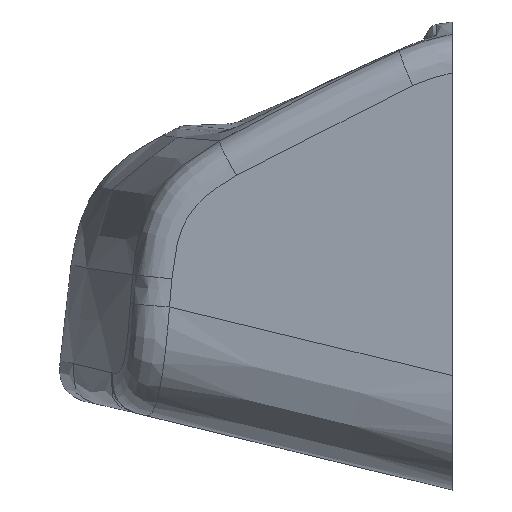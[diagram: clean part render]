
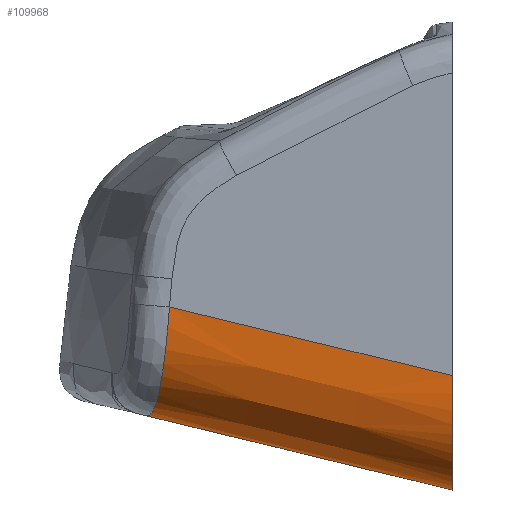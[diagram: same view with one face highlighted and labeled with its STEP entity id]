
A CAD part, front view. The second image highlights one B-rep face of the part: STEP entity #109968.
In plain terms, the highlighted free-form (B-spline) face has degree [3, 5] with [4, 6] control points.
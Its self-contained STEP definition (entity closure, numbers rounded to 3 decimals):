
#97053=CARTESIAN_POINT('Vertex',(-523.705,-799.225,474.48)) ;
#97057=CARTESIAN_POINT('Control Point',(-523.705,-788.705,463.661)) ;
#97058=CARTESIAN_POINT('Control Point',(-523.705,-789.318,463.663)) ;
#97059=CARTESIAN_POINT('Control Point',(-523.705,-789.931,463.665)) ;
#97060=CARTESIAN_POINT('Control Point',(-523.705,-790.545,463.681)) ;
#97061=CARTESIAN_POINT('Control Point',(-523.705,-792.189,463.794)) ;
#97062=CARTESIAN_POINT('Control Point',(-523.705,-793.808,464.158)) ;
#97063=CARTESIAN_POINT('Control Point',(-523.705,-794.797,464.531)) ;
#97064=CARTESIAN_POINT('Control Point',(-523.705,-796.55,465.595)) ;
#97065=CARTESIAN_POINT('Control Point',(-523.705,-797.81,467.171)) ;
#97066=CARTESIAN_POINT('Control Point',(-523.705,-798.275,468.03)) ;
#97067=CARTESIAN_POINT('Control Point',(-523.705,-798.936,469.819)) ;
#97068=CARTESIAN_POINT('Control Point',(-523.705,-799.18,471.688)) ;
#97069=CARTESIAN_POINT('Control Point',(-523.705,-799.225,472.621)) ;
#97070=CARTESIAN_POINT('Control Point',(-523.705,-799.225,473.551)) ;
#97071=CARTESIAN_POINT('Control Point',(-523.705,-799.225,474.48)) ;
#97072=CARTESIAN_POINT('Vertex',(-523.705,-788.705,463.661)) ;
#109829=CARTESIAN_POINT('Vertex',(-550.458,-796.884,480.975)) ;
#109833=CARTESIAN_POINT('Control Point',(-550.458,-796.884,480.975)) ;
#109834=CARTESIAN_POINT('Control Point',(-548.183,-797.084,480.423)) ;
#109835=CARTESIAN_POINT('Control Point',(-545.97,-797.277,479.886)) ;
#109836=CARTESIAN_POINT('Control Point',(-543.794,-797.467,479.357)) ;
#109837=CARTESIAN_POINT('Control Point',(-539.341,-797.857,478.276)) ;
#109838=CARTESIAN_POINT('Control Point',(-534.832,-798.252,477.182)) ;
#109839=CARTESIAN_POINT('Control Point',(-532.482,-798.457,476.611)) ;
#109840=CARTESIAN_POINT('Control Point',(-529.685,-798.702,475.932)) ;
#109841=CARTESIAN_POINT('Control Point',(-526.851,-798.95,475.244)) ;
#109842=CARTESIAN_POINT('Control Point',(-526.442,-798.986,475.145)) ;
#109843=CARTESIAN_POINT('Control Point',(-525.828,-799.039,474.996)) ;
#109844=CARTESIAN_POINT('Control Point',(-525.214,-799.093,474.846)) ;
#109845=CARTESIAN_POINT('Control Point',(-525.009,-799.111,474.797)) ;
#109846=CARTESIAN_POINT('Control Point',(-524.669,-799.141,474.714)) ;
#109847=CARTESIAN_POINT('Control Point',(-524.33,-799.17,474.632)) ;
#109848=CARTESIAN_POINT('Control Point',(-524.059,-799.194,474.566)) ;
#109849=CARTESIAN_POINT('Control Point',(-523.86,-799.211,474.518)) ;
#109850=CARTESIAN_POINT('Control Point',(-523.705,-799.225,474.48)) ;
#109890=CARTESIAN_POINT('Control Point',(-515.344,-789.437,461.63)) ;
#109891=CARTESIAN_POINT('Control Point',(-515.644,-793.103,461.716)) ;
#109892=CARTESIAN_POINT('Control Point',(-515.943,-796.769,461.802)) ;
#109893=CARTESIAN_POINT('Control Point',(-515.466,-799.946,464.911)) ;
#109894=CARTESIAN_POINT('Control Point',(-514.605,-800.021,468.487)) ;
#109895=CARTESIAN_POINT('Control Point',(-513.744,-800.097,472.062)) ;
#109896=CARTESIAN_POINT('Control Point',(-531.039,-788.064,465.441)) ;
#109897=CARTESIAN_POINT('Control Point',(-531.339,-791.729,465.526)) ;
#109898=CARTESIAN_POINT('Control Point',(-531.639,-795.395,465.612)) ;
#109899=CARTESIAN_POINT('Control Point',(-531.162,-798.573,468.721)) ;
#109900=CARTESIAN_POINT('Control Point',(-530.3,-798.648,472.297)) ;
#109901=CARTESIAN_POINT('Control Point',(-529.439,-798.723,475.872)) ;
#109902=CARTESIAN_POINT('Control Point',(-546.733,-786.69,469.252)) ;
#109903=CARTESIAN_POINT('Control Point',(-547.033,-790.356,469.336)) ;
#109904=CARTESIAN_POINT('Control Point',(-547.333,-794.022,469.422)) ;
#109905=CARTESIAN_POINT('Control Point',(-546.856,-797.2,472.531)) ;
#109906=CARTESIAN_POINT('Control Point',(-545.995,-797.275,476.107)) ;
#109907=CARTESIAN_POINT('Control Point',(-545.133,-797.35,479.682)) ;
#109908=CARTESIAN_POINT('Control Point',(-562.427,-785.317,473.062)) ;
#109909=CARTESIAN_POINT('Control Point',(-562.728,-788.982,473.147)) ;
#109910=CARTESIAN_POINT('Control Point',(-563.028,-792.648,473.232)) ;
#109911=CARTESIAN_POINT('Control Point',(-562.551,-795.827,476.342)) ;
#109912=CARTESIAN_POINT('Control Point',(-561.689,-795.902,479.917)) ;
#109913=CARTESIAN_POINT('Control Point',(-560.827,-795.977,483.493)) ;
#109915=CARTESIAN_POINT('Control Point',(-552.881,-786.152,470.745)) ;
#109916=CARTESIAN_POINT('Control Point',(-552.829,-786.436,470.733)) ;
#109917=CARTESIAN_POINT('Control Point',(-552.772,-786.746,470.72)) ;
#109918=CARTESIAN_POINT('Control Point',(-552.713,-787.081,470.708)) ;
#109919=CARTESIAN_POINT('Control Point',(-552.621,-787.612,470.696)) ;
#109920=CARTESIAN_POINT('Control Point',(-552.525,-788.179,470.7)) ;
#109921=CARTESIAN_POINT('Control Point',(-552.493,-788.371,470.704)) ;
#109922=CARTESIAN_POINT('Control Point',(-552.428,-788.766,470.718)) ;
#109923=CARTESIAN_POINT('Control Point',(-552.36,-789.183,470.746)) ;
#109924=CARTESIAN_POINT('Control Point',(-552.325,-789.399,470.764)) ;
#109925=CARTESIAN_POINT('Control Point',(-552.254,-789.843,470.811)) ;
#109926=CARTESIAN_POINT('Control Point',(-552.178,-790.319,470.886)) ;
#109927=CARTESIAN_POINT('Control Point',(-552.138,-790.572,470.934)) ;
#109928=CARTESIAN_POINT('Control Point',(-552.056,-791.086,471.046)) ;
#109929=CARTESIAN_POINT('Control Point',(-551.966,-791.65,471.216)) ;
#109930=CARTESIAN_POINT('Control Point',(-551.918,-791.949,471.319)) ;
#109931=CARTESIAN_POINT('Control Point',(-551.832,-792.475,471.531)) ;
#109932=CARTESIAN_POINT('Control Point',(-551.732,-793.058,471.841)) ;
#109933=CARTESIAN_POINT('Control Point',(-551.689,-793.303,471.985)) ;
#109934=CARTESIAN_POINT('Control Point',(-551.604,-793.767,472.293)) ;
#109935=CARTESIAN_POINT('Control Point',(-551.509,-794.252,472.696)) ;
#109936=CARTESIAN_POINT('Control Point',(-551.459,-794.493,472.92)) ;
#109937=CARTESIAN_POINT('Control Point',(-551.376,-794.869,473.316)) ;
#109938=CARTESIAN_POINT('Control Point',(-551.291,-795.219,473.77)) ;
#109939=CARTESIAN_POINT('Control Point',(-551.256,-795.355,473.962)) ;
#109940=CARTESIAN_POINT('Control Point',(-551.164,-795.693,474.488)) ;
#109941=CARTESIAN_POINT('Control Point',(-551.075,-795.979,475.057)) ;
#109942=CARTESIAN_POINT('Control Point',(-551.022,-796.13,475.414)) ;
#109943=CARTESIAN_POINT('Control Point',(-550.916,-796.404,476.178)) ;
#109944=CARTESIAN_POINT('Control Point',(-550.821,-796.592,476.968)) ;
#109945=CARTESIAN_POINT('Control Point',(-550.775,-796.667,477.373)) ;
#109946=CARTESIAN_POINT('Control Point',(-550.666,-796.816,478.417)) ;
#109947=CARTESIAN_POINT('Control Point',(-550.579,-796.867,479.405)) ;
#109948=CARTESIAN_POINT('Control Point',(-550.534,-796.878,479.964)) ;
#109949=CARTESIAN_POINT('Control Point',(-550.495,-796.881,480.489)) ;
#109950=CARTESIAN_POINT('Control Point',(-550.458,-796.884,480.975)) ;
#109951=CARTESIAN_POINT('Vertex',(-552.881,-786.152,470.745)) ;
#109955=CARTESIAN_POINT('Control Point',(-523.705,-788.705,463.661)) ;
#109956=CARTESIAN_POINT('Control Point',(-529.541,-788.195,465.077)) ;
#109957=CARTESIAN_POINT('Control Point',(-535.376,-787.684,466.494)) ;
#109958=CARTESIAN_POINT('Control Point',(-541.211,-787.173,467.911)) ;
#109959=CARTESIAN_POINT('Control Point',(-547.046,-786.663,469.328)) ;
#109960=CARTESIAN_POINT('Control Point',(-552.881,-786.152,470.745)) ;
#97074=EDGE_CURVE('',#97073,#97054,#97056,.T.) ;
#109851=EDGE_CURVE('',#109830,#97054,#109832,.T.) ;
#109953=EDGE_CURVE('',#109952,#109830,#109914,.T.) ;
#109961=EDGE_CURVE('',#109952,#97073,#109954,.F.) ;
#109963=ORIENTED_EDGE('',*,*,#109953,.F.) ;
#109964=ORIENTED_EDGE('',*,*,#109961,.T.) ;
#109965=ORIENTED_EDGE('',*,*,#97074,.T.) ;
#109966=ORIENTED_EDGE('',*,*,#109851,.F.) ;
#109968=ADVANCED_FACE('2021.0108',(#109967),#109889,.F.) ;
#97054=VERTEX_POINT('',#97053) ;
#97073=VERTEX_POINT('',#97072) ;
#109830=VERTEX_POINT('',#109829) ;
#109952=VERTEX_POINT('',#109951) ;
#97056=B_SPLINE_CURVE_WITH_KNOTS('',5,(#97057,#97058,#97059,#97060,#97061,#97062,#97063,#97064,#97065,#97066,#97067,#97068,#97069,#97070,#97071),.UNSPECIFIED.,.F.,.U.,(6,3,3,3,6),(0.,3.089,8.274,13.204,18.108),.UNSPECIFIED.) ;
#109832=B_SPLINE_CURVE_WITH_KNOTS('',5,(#109833,#109834,#109835,#109836,#109837,#109838,#109839,#109840,#109841,#109842,#109843,#109844,#109845,#109846,#109847,#109848,#109849,#109850),.UNSPECIFIED.,.F.,.U.,(6,3,3,3,3,6),(51.776,78.54,106.709,111.448,113.817,115.367),.UNSPECIFIED.) ;
#109914=B_SPLINE_CURVE_WITH_KNOTS('',5,(#109915,#109916,#109917,#109918,#109919,#109920,#109921,#109922,#109923,#109924,#109925,#109926,#109927,#109928,#109929,#109930,#109931,#109932,#109933,#109934,#109935,#109936,#109937,#109938,#109939,#109940,#109941,#109942,#109943,#109944,#109945,#109946,#109947,#109948,#109949,#109950),.UNSPECIFIED.,.F.,.U.,(6,3,3,3,3,3,3,3,3,3,3,6),(0.,5.493,8.243,10.994,13.731,16.481,18.313,19.885,20.985,22.74,24.604,27.525),.UNSPECIFIED.) ;
#109954=B_SPLINE_CURVE_WITH_KNOTS('',5,(#109955,#109956,#109957,#109958,#109959,#109960),.UNSPECIFIED.,.F.,.U.,(6,6),(28.11,70.699),.UNSPECIFIED.) ;
#109889=B_SPLINE_SURFACE_WITH_KNOTS('',3,5,((#109890,#109891,#109892,#109893,#109894,#109895),(#109896,#109897,#109898,#109899,#109900,#109901),(#109902,#109903,#109904,#109905,#109906,#109907),(#109908,#109909,#109910,#109911,#109912,#109913)),.UNSPECIFIED.,.F.,.F.,.U.,(4,4),(6,6),(15.904,84.634),(0.,1.),.UNSPECIFIED.) ;
#109962=EDGE_LOOP('',(#109963,#109964,#109965,#109966)) ;
#109967=FACE_OUTER_BOUND('',#109962,.T.) ;
